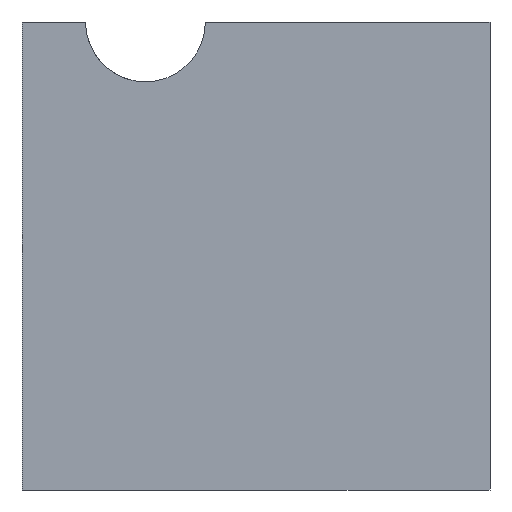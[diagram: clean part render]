
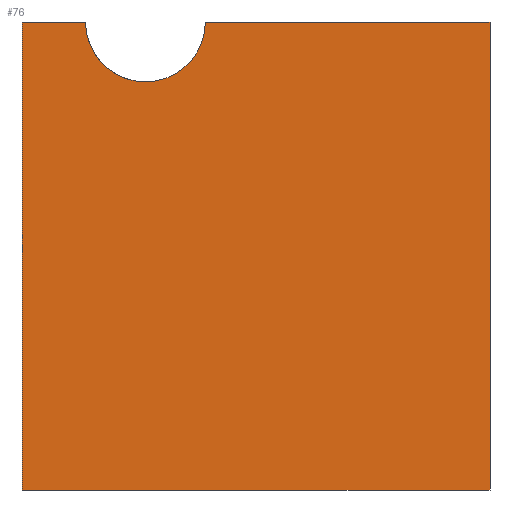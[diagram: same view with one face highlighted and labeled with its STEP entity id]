
A CAD part, left-side view. The second image highlights one B-rep face of the part: STEP entity #76.
In plain terms, the highlighted planar face has unit normal (-1, 0, 0).
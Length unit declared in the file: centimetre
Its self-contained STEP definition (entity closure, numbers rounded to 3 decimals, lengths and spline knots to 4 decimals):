
#22 = VERTEX_POINT ( 'NONE', #644 ) ;
#36 = CARTESIAN_POINT ( 'NONE',  ( 0., 736.281, 1000. ) ) ;
#44 = FACE_OUTER_BOUND ( 'NONE', #114, .T. ) ;
#49 = ORIENTED_EDGE ( 'NONE', *, *, #85, .F. ) ;
#57 = DIRECTION ( 'NONE',  ( 0., -1., 0. ) ) ;
#76 = ADVANCED_FACE ( 'NONE', ( #44 ), #472, .F. ) ;
#85 = EDGE_CURVE ( 'NONE', #22, #173, #649, .T. ) ;
#90 = ORIENTED_EDGE ( 'NONE', *, *, #657, .T. ) ;
#91 = VECTOR ( 'NONE', #634, 100. ) ;
#112 = EDGE_CURVE ( 'NONE', #481, #173, #658, .T. ) ;
#113 = CARTESIAN_POINT ( 'NONE',  ( 0., 1000., 1000. ) ) ;
#114 = EDGE_LOOP ( 'NONE', ( #532, #670, #414, #90, #365, #49 ) ) ;
#135 = CARTESIAN_POINT ( 'NONE',  ( 0., 1000., 1000. ) ) ;
#150 = DIRECTION ( 'NONE',  ( 0., 0., -1. ) ) ;
#173 = VERTEX_POINT ( 'NONE', #413 ) ;
#221 = CARTESIAN_POINT ( 'NONE',  ( 0., 1000., 1000. ) ) ;
#227 = DIRECTION ( 'NONE',  ( 0., 0., 1. ) ) ;
#231 = CARTESIAN_POINT ( 'NONE',  ( 0., 1000., 0. ) ) ;
#247 = VERTEX_POINT ( 'NONE', #407 ) ;
#249 = CIRCLE ( 'NONE', #491, 127.9582 ) ;
#254 = EDGE_CURVE ( 'NONE', #247, #715, #249, .T. ) ;
#292 = VECTOR ( 'NONE', #768, 100. ) ;
#304 = DIRECTION ( 'NONE',  ( 0., -1., 0. ) ) ;
#337 = DIRECTION ( 'NONE',  ( 0., 0., -1. ) ) ;
#362 = CARTESIAN_POINT ( 'NONE',  ( 0., 1000., 0. ) ) ;
#365 = ORIENTED_EDGE ( 'NONE', *, *, #112, .T. ) ;
#372 = VECTOR ( 'NONE', #304, 100. ) ;
#382 = CARTESIAN_POINT ( 'NONE',  ( 0., 1000., 1000. ) ) ;
#407 = CARTESIAN_POINT ( 'NONE',  ( 0., 864.2392, 1000. ) ) ;
#413 = CARTESIAN_POINT ( 'NONE',  ( 0., 0., 0. ) ) ;
#414 = ORIENTED_EDGE ( 'NONE', *, *, #465, .F. ) ;
#439 = CARTESIAN_POINT ( 'NONE',  ( 0., 608.3229, 1000. ) ) ;
#465 = EDGE_CURVE ( 'NONE', #677, #247, #609, .T. ) ;
#472 = PLANE ( 'NONE',  #643 ) ;
#474 = EDGE_CURVE ( 'NONE', #715, #22, #722, .T. ) ;
#481 = VERTEX_POINT ( 'NONE', #231 ) ;
#491 = AXIS2_PLACEMENT_3D ( 'NONE', #36, #513, #227 ) ;
#513 = DIRECTION ( 'NONE',  ( -1., 0., 0. ) ) ;
#532 = ORIENTED_EDGE ( 'NONE', *, *, #474, .F. ) ;
#609 = LINE ( 'NONE', #785, #784 ) ;
#634 = DIRECTION ( 'NONE',  ( 0., 0., -1. ) ) ;
#643 = AXIS2_PLACEMENT_3D ( 'NONE', #221, #774, #150 ) ;
#644 = CARTESIAN_POINT ( 'NONE',  ( 0., 0., 1000. ) ) ;
#649 = LINE ( 'NONE', #717, #767 ) ;
#657 = EDGE_CURVE ( 'NONE', #677, #481, #743, .T. ) ;
#658 = LINE ( 'NONE', #362, #292 ) ;
#670 = ORIENTED_EDGE ( 'NONE', *, *, #254, .F. ) ;
#677 = VERTEX_POINT ( 'NONE', #382 ) ;
#715 = VERTEX_POINT ( 'NONE', #439 ) ;
#717 = CARTESIAN_POINT ( 'NONE',  ( 0., 0., 1000. ) ) ;
#722 = LINE ( 'NONE', #113, #372 ) ;
#743 = LINE ( 'NONE', #135, #91 ) ;
#767 = VECTOR ( 'NONE', #337, 100. ) ;
#768 = DIRECTION ( 'NONE',  ( 0., -1., 0. ) ) ;
#774 = DIRECTION ( 'NONE',  ( 1., 0., 0. ) ) ;
#784 = VECTOR ( 'NONE', #57, 100. ) ;
#785 = CARTESIAN_POINT ( 'NONE',  ( 0., 1000., 1000. ) ) ;
